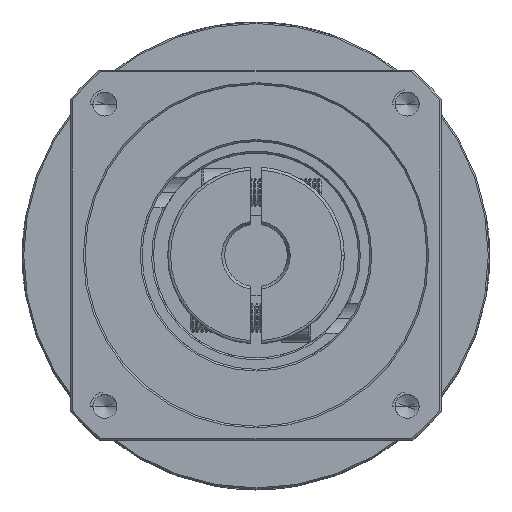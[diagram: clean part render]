
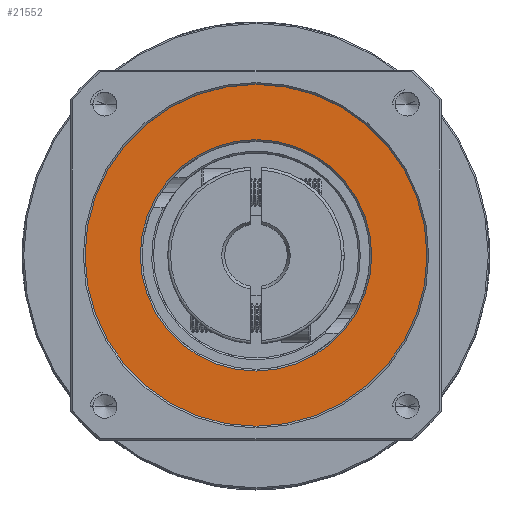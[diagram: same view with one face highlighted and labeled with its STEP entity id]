
A CAD part, top view. The second image highlights one B-rep face of the part: STEP entity #21552.
In plain terms, the highlighted planar face has unit normal (0, 0, 1).
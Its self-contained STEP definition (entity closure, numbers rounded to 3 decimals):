
#4487 = EDGE_CURVE ( 'NONE', #101777, #70913, #34844, .T. ) ;
#7476 = DIRECTION ( 'NONE',  ( 0., 0., -1. ) ) ;
#10467 = CARTESIAN_POINT ( 'NONE',  ( -35.841, 24.936, 5.575 ) ) ;
#10778 = DIRECTION ( 'NONE',  ( 0., 0., 1. ) ) ;
#11702 = AXIS2_PLACEMENT_3D ( 'NONE', #68337, #10778, #77968 ) ;
#12391 = EDGE_CURVE ( 'NONE', #70913, #101777, #76781, .T. ) ;
#14623 = EDGE_LOOP ( 'NONE', ( #77662, #116225 ) ) ;
#14832 = DIRECTION ( 'NONE',  ( 0., 0., 1. ) ) ;
#15512 = CARTESIAN_POINT ( 'NONE',  ( -45.541, 24.936, 5.575 ) ) ;
#16044 = EDGE_LOOP ( 'NONE', ( #26585, #88658 ) ) ;
#20081 = PLANE ( 'NONE',  #11702 ) ;
#21552 = ADVANCED_FACE ( 'NONE', ( #95247, #120802 ), #20081, .T. ) ;
#24952 = CIRCLE ( 'NONE', #55884, 20.3 ) ;
#26585 = ORIENTED_EDGE ( 'NONE', *, *, #43312, .T. ) ;
#30129 = DIRECTION ( 'NONE',  ( 0., 0., 1. ) ) ;
#30278 = DIRECTION ( 'NONE',  ( 1., 0., 0. ) ) ;
#30296 = CARTESIAN_POINT ( 'NONE',  ( -65.841, 24.936, 5.575 ) ) ;
#32949 = DIRECTION ( 'NONE',  ( 0., 0., -1. ) ) ;
#34844 = CIRCLE ( 'NONE', #67177, 30. ) ;
#43312 = EDGE_CURVE ( 'NONE', #95861, #106225, #107226, .T. ) ;
#55884 = AXIS2_PLACEMENT_3D ( 'NONE', #65098, #7476, #74669 ) ;
#56159 = AXIS2_PLACEMENT_3D ( 'NONE', #72269, #14832, #81971 ) ;
#65098 = CARTESIAN_POINT ( 'NONE',  ( -65.841, 24.936, 5.575 ) ) ;
#67177 = AXIS2_PLACEMENT_3D ( 'NONE', #30296, #30129, #30278 ) ;
#68337 = CARTESIAN_POINT ( 'NONE',  ( -65.841, 24.936, 5.575 ) ) ;
#70913 = VERTEX_POINT ( 'NONE', #117261 ) ;
#72269 = CARTESIAN_POINT ( 'NONE',  ( -65.841, 24.936, 5.575 ) ) ;
#74669 = DIRECTION ( 'NONE',  ( 1., 0., 0. ) ) ;
#76781 = CIRCLE ( 'NONE', #56159, 30. ) ;
#77662 = ORIENTED_EDGE ( 'NONE', *, *, #4487, .T. ) ;
#77968 = DIRECTION ( 'NONE',  ( 1., 0., 0. ) ) ;
#81971 = DIRECTION ( 'NONE',  ( 1., 0., 0. ) ) ;
#88658 = ORIENTED_EDGE ( 'NONE', *, *, #89721, .T. ) ;
#89721 = EDGE_CURVE ( 'NONE', #106225, #95861, #24952, .T. ) ;
#90412 = CARTESIAN_POINT ( 'NONE',  ( -65.841, 24.936, 5.575 ) ) ;
#90488 = CARTESIAN_POINT ( 'NONE',  ( -86.141, 24.936, 5.575 ) ) ;
#95247 = FACE_BOUND ( 'NONE', #16044, .T. ) ;
#95861 = VERTEX_POINT ( 'NONE', #15512 ) ;
#100080 = DIRECTION ( 'NONE',  ( 1., 0., 0. ) ) ;
#101777 = VERTEX_POINT ( 'NONE', #10467 ) ;
#104647 = AXIS2_PLACEMENT_3D ( 'NONE', #90412, #32949, #100080 ) ;
#106225 = VERTEX_POINT ( 'NONE', #90488 ) ;
#107226 = CIRCLE ( 'NONE', #104647, 20.3 ) ;
#116225 = ORIENTED_EDGE ( 'NONE', *, *, #12391, .T. ) ;
#117261 = CARTESIAN_POINT ( 'NONE',  ( -95.841, 24.936, 5.575 ) ) ;
#120802 = FACE_OUTER_BOUND ( 'NONE', #14623, .T. ) ;
